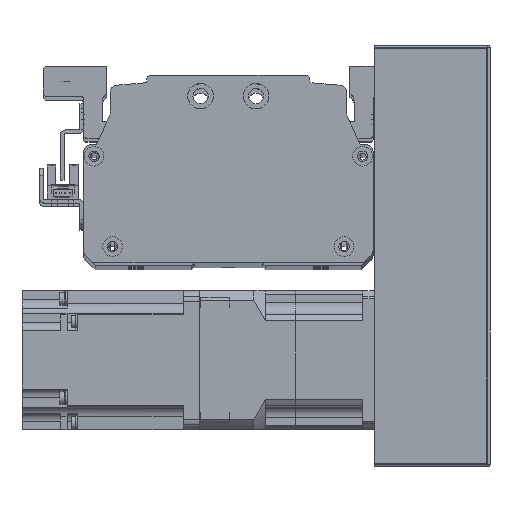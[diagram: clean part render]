
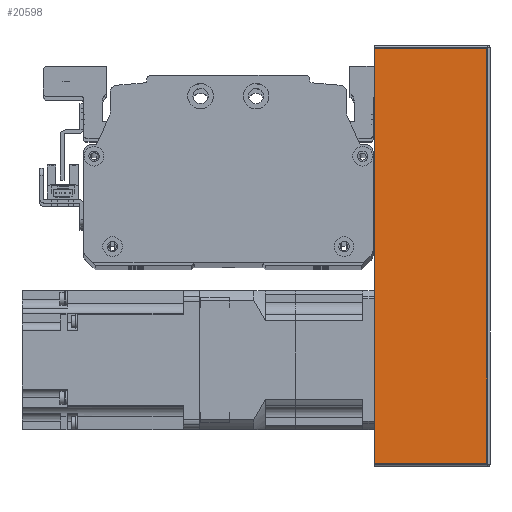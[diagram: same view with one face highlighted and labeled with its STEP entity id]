
A CAD part, top view. The second image highlights one B-rep face of the part: STEP entity #20598.
In plain terms, the highlighted planar face has unit normal (0, 0, 1) as drawn and (0, 1, 0) by its records, which use the part's own axes.
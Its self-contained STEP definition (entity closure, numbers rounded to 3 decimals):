
#568=PLANE('',#22613);
#1775=LINE('',#33543,#3399);
#1789=LINE('',#33588,#3413);
#1793=LINE('',#33610,#3417);
#1812=LINE('',#33673,#3436);
#3399=VECTOR('',#27254,10.);
#3413=VECTOR('',#27302,10.);
#3417=VECTOR('',#27336,10.);
#3436=VECTOR('',#27419,10.);
#5818=FACE_OUTER_BOUND('',#7282,.T.);
#7282=EDGE_LOOP('',(#17188,#17189,#17190,#17191));
#10138=VERTEX_POINT('',#33540);
#10139=VERTEX_POINT('',#33542);
#10152=VERTEX_POINT('',#33583);
#10153=VERTEX_POINT('',#33586);
#12583=EDGE_CURVE('',#10139,#10138,#1775,.T.);
#12607=EDGE_CURVE('',#10152,#10153,#1789,.T.);
#12619=EDGE_CURVE('',#10138,#10152,#1793,.T.);
#12650=EDGE_CURVE('',#10153,#10139,#1812,.T.);
#17188=ORIENTED_EDGE('',*,*,#12607,.T.);
#17189=ORIENTED_EDGE('',*,*,#12650,.T.);
#17190=ORIENTED_EDGE('',*,*,#12583,.T.);
#17191=ORIENTED_EDGE('',*,*,#12619,.T.);
#20598=ADVANCED_FACE('',(#5818),#568,.F.);
#22613=AXIS2_PLACEMENT_3D('',#33672,#27417,#27418);
#27254=DIRECTION('',(-1.,0.,0.));
#27302=DIRECTION('',(1.,0.,0.));
#27336=DIRECTION('',(0.,0.,1.));
#27417=DIRECTION('center_axis',(0.,-1.,0.));
#27418=DIRECTION('ref_axis',(-1.,0.,0.));
#27419=DIRECTION('',(0.,0.,-1.));
#33540=CARTESIAN_POINT('',(-90.,38.,-25.));
#33542=CARTESIAN_POINT('',(90.,38.,-25.));
#33543=CARTESIAN_POINT('',(-91.,38.,-25.));
#33583=CARTESIAN_POINT('',(-90.,38.,24.));
#33586=CARTESIAN_POINT('',(90.,38.,24.));
#33588=CARTESIAN_POINT('',(45.5,38.,24.));
#33610=CARTESIAN_POINT('',(-90.,38.,0.));
#33672=CARTESIAN_POINT('Origin',(91.,38.,0.));
#33673=CARTESIAN_POINT('',(90.,38.,0.));
